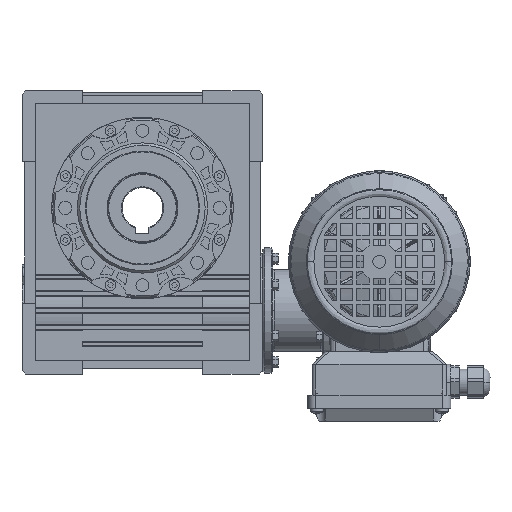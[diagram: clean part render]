
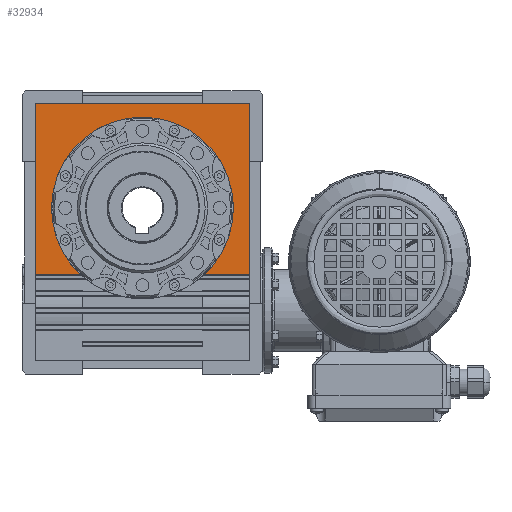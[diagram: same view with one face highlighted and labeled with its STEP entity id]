
A CAD part, front view. The second image highlights one B-rep face of the part: STEP entity #32934.
In plain terms, the highlighted planar face has unit normal (0, -1, 0).
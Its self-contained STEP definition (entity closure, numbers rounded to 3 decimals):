
#12566 = ORIENTED_EDGE ( 'NONE', *, *, #98649, .F. ) ;
#12567 = ORIENTED_EDGE ( 'NONE', *, *, #98628, .F. ) ;
#12568 = ORIENTED_EDGE ( 'NONE', *, *, #98604, .F. ) ;
#12569 = ORIENTED_EDGE ( 'NONE', *, *, #98972, .F. ) ;
#12570 = ORIENTED_EDGE ( 'NONE', *, *, #99042, .F. ) ;
#12571 = ORIENTED_EDGE ( 'NONE', *, *, #90844, .F. ) ;
#12572 = ORIENTED_EDGE ( 'NONE', *, *, #99039, .F. ) ;
#32934 = ADVANCED_FACE ( 'NONE', ( #87386 ), #100349, .F. ) ;
#50110 = LINE ( 'NONE', #51787, #50117 ) ;
#50117 = VECTOR ( 'NONE', #51796, 1000. ) ;
#50125 = LINE ( 'NONE', #51819, #50130 ) ;
#50130 = VECTOR ( 'NONE', #51830, 1000. ) ;
#50138 = LINE ( 'NONE', #51842, #50141 ) ;
#50141 = VECTOR ( 'NONE', #51844, 1000. ) ;
#50293 = LINE ( 'NONE', #52326, #50297 ) ;
#50297 = VECTOR ( 'NONE', #52332, 1000. ) ;
#50325 = LINE ( 'NONE', #52382, #50333 ) ;
#50332 = CIRCLE ( 'NONE', #112220, 55.8 ) ;
#50333 = VECTOR ( 'NONE', #52380, 1000. ) ;
#51787 = CARTESIAN_POINT ( 'NONE',  ( -213.5, -33.5, 127. ) ) ;
#51796 = DIRECTION ( 'NONE',  ( 0., 0., 1. ) ) ;
#51819 = CARTESIAN_POINT ( 'NONE',  ( -81.5, -33.5, 127. ) ) ;
#51830 = DIRECTION ( 'NONE',  ( 1., 0., 0. ) ) ;
#51842 = CARTESIAN_POINT ( 'NONE',  ( -81.5, -33.5, 127. ) ) ;
#51844 = DIRECTION ( 'NONE',  ( 0., 0., -1. ) ) ;
#52326 = CARTESIAN_POINT ( 'NONE',  ( -81.5, -33.5, 22.242 ) ) ;
#52332 = DIRECTION ( 'NONE',  ( -1., 0., 0. ) ) ;
#52380 = DIRECTION ( 'NONE',  ( -1., 0., 0. ) ) ;
#52382 = CARTESIAN_POINT ( 'NONE',  ( -81.5, -33.5, 22.242 ) ) ;
#52388 = CARTESIAN_POINT ( 'NONE',  ( -147.5, -33.5, 63. ) ) ;
#52389 = DIRECTION ( 'NONE',  ( 0., -1., 0. ) ) ;
#52390 = DIRECTION ( 'NONE',  ( 0., 0., 1. ) ) ;
#58305 = VERTEX_POINT ( 'NONE', #105431 ) ;
#58307 = VERTEX_POINT ( 'NONE', #105425 ) ;
#60252 = VERTEX_POINT ( 'NONE', #107550 ) ;
#60267 = VERTEX_POINT ( 'NONE', #107561 ) ;
#60270 = VERTEX_POINT ( 'NONE', #107563 ) ;
#60281 = VERTEX_POINT ( 'NONE', #107570 ) ;
#60424 = VERTEX_POINT ( 'NONE', #107669 ) ;
#74371 = AXIS2_PLACEMENT_3D ( 'NONE', #100322, #100356, #100360 ) ;
#87386 = FACE_OUTER_BOUND ( 'NONE', #107824, .T. ) ;
#88921 = CIRCLE ( 'NONE', #109748, 55.8 ) ;
#90844 = EDGE_CURVE ( 'NONE', #58305, #58307, #88921, .T. ) ;
#98604 = EDGE_CURVE ( 'NONE', #60252, #60270, #50110, .T. ) ;
#98628 = EDGE_CURVE ( 'NONE', #60270, #60267, #50125, .T. ) ;
#98649 = EDGE_CURVE ( 'NONE', #60267, #60281, #50138, .T. ) ;
#98972 = EDGE_CURVE ( 'NONE', #60424, #60252, #50293, .T. ) ;
#99039 = EDGE_CURVE ( 'NONE', #60281, #58305, #50325, .T. ) ;
#99042 = EDGE_CURVE ( 'NONE', #58307, #60424, #50332, .T. ) ;
#100322 = CARTESIAN_POINT ( 'NONE',  ( -81.5, -33.5, 127. ) ) ;
#100349 = PLANE ( 'NONE',  #74371 ) ;
#100356 = DIRECTION ( 'NONE',  ( 0., 1., 0. ) ) ;
#100360 = DIRECTION ( 'NONE',  ( 0., 0., 1. ) ) ;
#105425 = CARTESIAN_POINT ( 'NONE',  ( -147.5, -33.5, 118.8 ) ) ;
#105431 = CARTESIAN_POINT ( 'NONE',  ( -109.39, -33.5, 22.242 ) ) ;
#107550 = CARTESIAN_POINT ( 'NONE',  ( -213.5, -33.5, 22.242 ) ) ;
#107561 = CARTESIAN_POINT ( 'NONE',  ( -81.5, -33.5, 127. ) ) ;
#107563 = CARTESIAN_POINT ( 'NONE',  ( -213.5, -33.5, 127. ) ) ;
#107570 = CARTESIAN_POINT ( 'NONE',  ( -81.5, -33.5, 22.242 ) ) ;
#107669 = CARTESIAN_POINT ( 'NONE',  ( -185.61, -33.5, 22.242 ) ) ;
#107824 = EDGE_LOOP ( 'NONE', ( #12566, #12567, #12568, #12569, #12570, #12571, #12572 ) ) ;
#109748 = AXIS2_PLACEMENT_3D ( 'NONE', #113388, #113389, #113390 ) ;
#112220 = AXIS2_PLACEMENT_3D ( 'NONE', #52388, #52389, #52390 ) ;
#113388 = CARTESIAN_POINT ( 'NONE',  ( -147.5, -33.5, 63. ) ) ;
#113389 = DIRECTION ( 'NONE',  ( 0., -1., 0. ) ) ;
#113390 = DIRECTION ( 'NONE',  ( 0., 0., 1. ) ) ;
